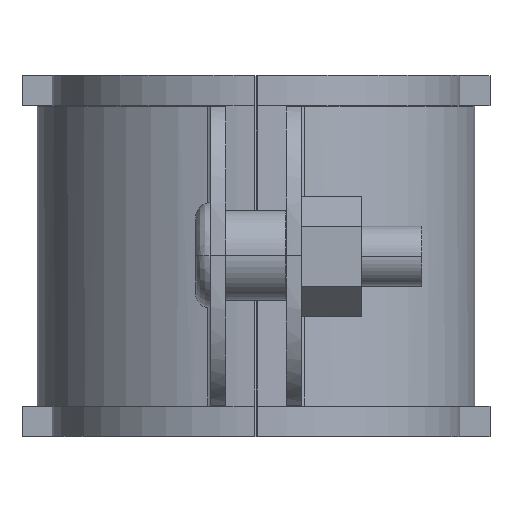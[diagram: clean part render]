
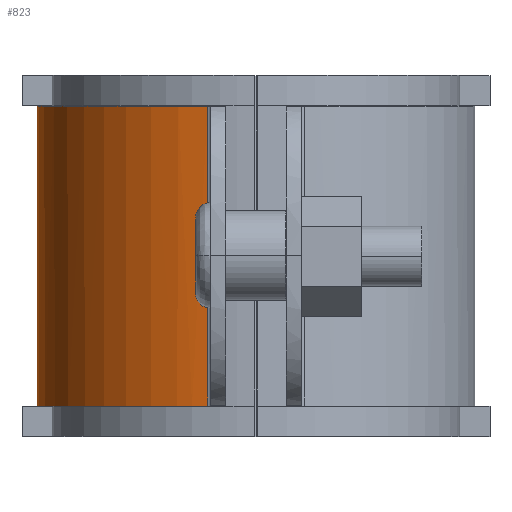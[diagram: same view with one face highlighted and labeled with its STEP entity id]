
A CAD part, top view. The second image highlights one B-rep face of the part: STEP entity #823.
In plain terms, the highlighted free-form (B-spline) face has degree [3, 1] with [4, 2] control points.
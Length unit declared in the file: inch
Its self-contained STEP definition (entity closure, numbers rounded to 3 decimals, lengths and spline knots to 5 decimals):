
#431=EDGE_CURVE('',#1117,#1019,#1118,.T.);
#641=EDGE_CURVE('',#1019,#1431,#1432,.T.);
#667=EDGE_CURVE('',#1431,#1468,#1469,.T.);
#823=ADVANCED_FACE('',(#1675),#1676,.T.);
#913=EDGE_CURVE('',#1117,#1468,#1787,.T.);
#1019=VERTEX_POINT('',#1930);
#1117=VERTEX_POINT('',#2101);
#1118=B_SPLINE_CURVE_WITH_KNOTS('',3,(#2102,#2103,#2104,#2105),.UNSPECIFIED.,.F.,.F.,(4,4),(-1.0,-0.0),.UNSPECIFIED.);
#1431=VERTEX_POINT('',#2766);
#1432=LINE('',#2767,#2768);
#1468=VERTEX_POINT('',#2840);
#1469=B_SPLINE_CURVE_WITH_KNOTS('',3,(#2841,#2842,#2843,#2844),.UNSPECIFIED.,.F.,.F.,(4,4),(0.0,1.0),.UNSPECIFIED.);
#1675=FACE_OUTER_BOUND('',#3273,.T.);
#1676=B_SPLINE_SURFACE_WITH_KNOTS('',3,1,((#3274,#3275),(#3276,#3277),(#3278,#3279),(#3280,#3281)),.UNSPECIFIED.,.F.,.F.,.F.,(4,4),(2,2),(-1.0,-0.0),(0.0,1.25),.UNSPECIFIED.);
#1787=LINE('',#3475,#3476);
#1930=CARTESIAN_POINT('',(0.0,1.24627,1.58167));
#2101=CARTESIAN_POINT('',(0.70861,1.24627,2.46946));
#2102=CARTESIAN_POINT('',(0.70861,1.24627,2.46946));
#2103=CARTESIAN_POINT('',(0.30292,1.24627,2.37749));
#2104=CARTESIAN_POINT('',(0.0,1.24627,2.01524));
#2105=CARTESIAN_POINT('',(0.0,1.24627,1.58167));
#2766=CARTESIAN_POINT('',(0.0,0.0,1.58167));
#2767=CARTESIAN_POINT('',(0.0,1.25,1.58167));
#2768=VECTOR('',#4261,1.0);
#2840=CARTESIAN_POINT('',(0.70861,0.0,2.46946));
#2841=CARTESIAN_POINT('',(0.0,0.0,1.58167));
#2842=CARTESIAN_POINT('',(0.0,0.0,2.01524));
#2843=CARTESIAN_POINT('',(0.30292,0.0,2.37749));
#2844=CARTESIAN_POINT('',(0.70861,0.0,2.46946));
#3273=EDGE_LOOP('',(#4698,#4699,#4700,#4701));
#3274=CARTESIAN_POINT('',(0.70861,1.25,2.46946));
#3275=CARTESIAN_POINT('',(0.70861,0.0,2.46946));
#3276=CARTESIAN_POINT('',(0.30292,1.25,2.37749));
#3277=CARTESIAN_POINT('',(0.30292,0.0,2.37749));
#3278=CARTESIAN_POINT('',(0.0,1.25,2.01524));
#3279=CARTESIAN_POINT('',(0.0,0.0,2.01524));
#3280=CARTESIAN_POINT('',(0.0,1.25,1.58167));
#3281=CARTESIAN_POINT('',(0.0,0.0,1.58167));
#3475=CARTESIAN_POINT('',(0.70861,1.25,2.46946));
#3476=VECTOR('',#4897,1.0);
#4261=DIRECTION('',(0.0,-1.0,0.0));
#4698=ORIENTED_EDGE('',*,*,#431,.T.);
#4699=ORIENTED_EDGE('',*,*,#641,.T.);
#4700=ORIENTED_EDGE('',*,*,#667,.T.);
#4701=ORIENTED_EDGE('',*,*,#913,.F.);
#4897=DIRECTION('',(0.0,-1.0,0.0));
